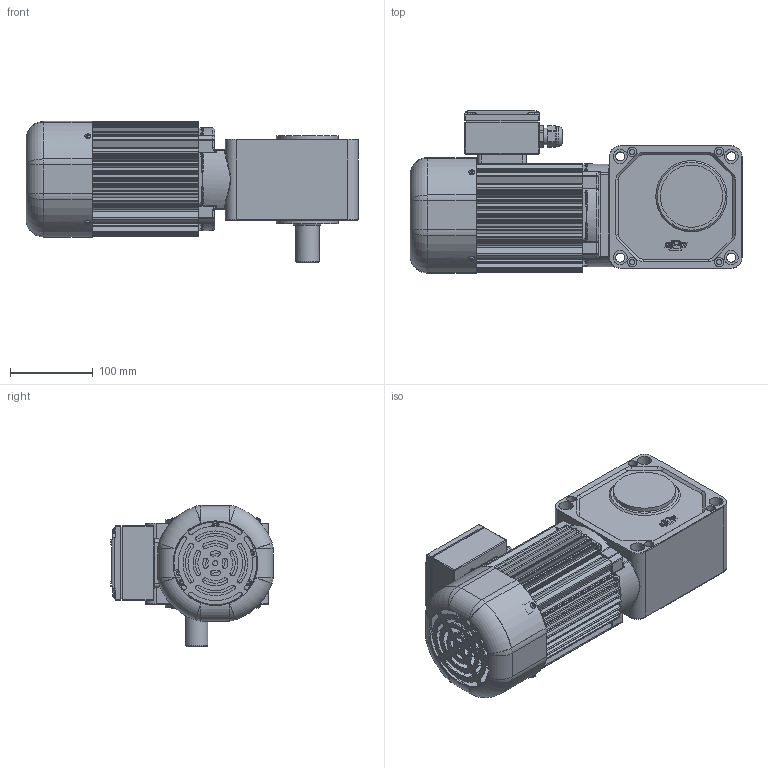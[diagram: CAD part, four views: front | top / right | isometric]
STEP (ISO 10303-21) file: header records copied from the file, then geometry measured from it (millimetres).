
FILE_DESCRIPTION(/* description */ (''),/* implementation_level */ '2;1');
FILE_NAME(/* name */ 'Z:\동력 3D 파일\PCS28R_0.4kW_Brake_3D.stp',/* time_stamp */ '2021-11-09T11:21:56+09:00',/* author */ ('jaebok'),/* organization */ (''),/* preprocessor_version */ 'ST-DEVELOPER v18.1',/* originating_system */ 'Autodesk Inventor 2022',/* authorisation */ '');
FILE_SCHEMA (('AUTOMOTIVE_DESIGN { 1 0 10303 214 3 1 1 }'));
Products named in the file (1): 부품52
Bounding box: 400.5 x 195.7 x 170.2 mm (x, y, z)
Volume: 2453876.7 mm3; surface area: 648366.9 mm2
Topology: 2 solids, 18 shells, 2026 faces, 5165 edges, 3230 vertices
Faces by surface type: plane 904, cylinder 781, torus 107, cone 107, bspline 99, sphere 28
Full cylindrical faces by diameter (mm): 1.5 x2, 2 x4, 3 x8, 3.242 x5, 3.25 x1, 3.3 x4, 3.6 x4, 3.8 x3, 4 x25, 4.2 x8, 5 x19, 5.8 x2, 5.9 x3, 6 x18, 6.4 x1, 6.5 x10, 6.647 x1, 7 x12, 7.9 x6, 8 x3, 8.5 x1, 8.7 x1, 10 x1, 11 x8, 12.5 x1, 15 x1, 17 x12, 18 x1, 20 x2, 21 x1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
Entity records: 68676 total; most frequent: CARTESIAN_POINT 17435, DIRECTION 10747, ORIENTED_EDGE 10192, EDGE_CURVE 5096, AXIS2_PLACEMENT_3D 4120, VERTEX_POINT 3224, LINE 2507, VECTOR 2507
